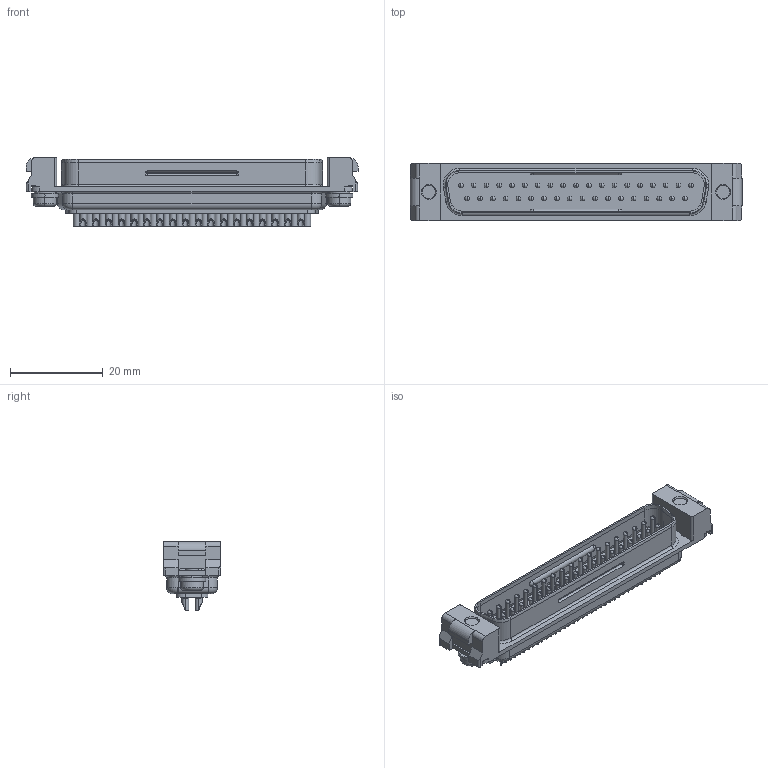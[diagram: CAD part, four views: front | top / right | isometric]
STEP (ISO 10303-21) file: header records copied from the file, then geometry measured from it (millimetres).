
FILE_DESCRIPTION (( 'STEP AP203' ), '1' );
FILE_NAME ('17JE-23370-02(D2C).STEP', '2021-07-29T09:38:45', ( '' ), ( '' ), 'SwSTEP 2.0', 'SolidWorks 2018', '' );
FILE_SCHEMA (( 'CONFIG_CONTROL_DESIGN' ));
Length unit declared in the file: millimetre
Products named in the file (1): 17JE-23370-02(D2C)
Bounding box: 71.6 x 12.4 x 14.8 mm (x, y, z)
Volume: 4815.2 mm3; surface area: 7714.3 mm2
Topology: 1 solids, 1 shells, 861 faces, 2198 edges, 1332 vertices
Faces by surface type: cylinder 410, plane 215, torus 146, cone 82, bspline 4, sphere 4
Entity records: 27734 total; most frequent: CARTESIAN_POINT 6578, DIRECTION 4825, ORIENTED_EDGE 4232, EDGE_CURVE 2116, AXIS2_PLACEMENT_3D 1977, VERTEX_POINT 1328, CIRCLE 1119, EDGE_LOOP 956
